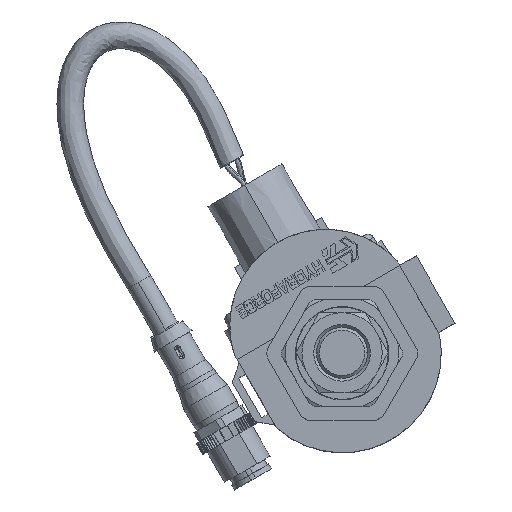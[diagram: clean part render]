
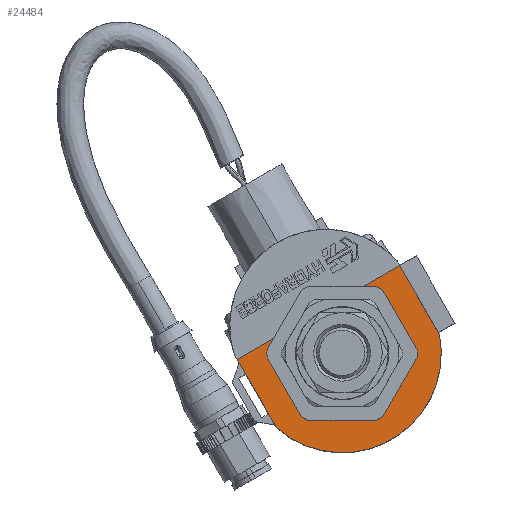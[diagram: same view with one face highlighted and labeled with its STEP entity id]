
A CAD part, top view. The second image highlights one B-rep face of the part: STEP entity #24484.
In plain terms, the highlighted planar face has unit normal (0, 0, 1).
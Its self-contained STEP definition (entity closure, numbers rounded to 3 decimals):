
#542=DIRECTION('',(-0.866,-0.5,0.));
#543=VECTOR('',#542,11.062);
#544=CARTESIAN_POINT('',(-15.338,4.138,38.557));
#545=LINE('',#544,#543);
#895=CARTESIAN_POINT('',(0.,0.,38.557));
#896=DIRECTION('',(0.,0.,1.));
#897=DIRECTION('',(-0.993,0.115,0.));
#898=AXIS2_PLACEMENT_3D('',#895,#896,#897);
#900=CARTESIAN_POINT('',(0.,0.,38.557));
#901=DIRECTION('',(0.,0.,1.));
#902=DIRECTION('',(-0.866,-0.5,0.));
#903=AXIS2_PLACEMENT_3D('',#900,#901,#902);
#905=CARTESIAN_POINT('',(0.,0.,38.557));
#906=DIRECTION('',(0.,0.,1.));
#907=DIRECTION('',(0.866,0.5,0.));
#908=AXIS2_PLACEMENT_3D('',#905,#906,#907);
#910=DIRECTION('',(-0.5,0.866,0.));
#911=VECTOR('',#910,2.921);
#912=CARTESIAN_POINT('',(5.546,12.822,38.557));
#913=LINE('',#912,#911);
#914=DIRECTION('',(0.866,0.5,0.));
#915=VECTOR('',#914,11.062);
#916=CARTESIAN_POINT('',(4.086,15.352,38.557));
#917=LINE('',#916,#915);
#918=DIRECTION('',(0.5,-0.866,0.));
#919=VECTOR('',#918,18.923);
#920=CARTESIAN_POINT('',(13.665,20.883,38.557));
#921=LINE('',#920,#919);
#922=CARTESIAN_POINT('',(0.,0.,38.557));
#923=DIRECTION('',(0.,0.,-1.));
#924=DIRECTION('',(0.982,0.191,0.));
#925=AXIS2_PLACEMENT_3D('',#922,#923,#924);
#927=DIRECTION('',(-0.5,0.866,0.));
#928=VECTOR('',#927,18.923);
#929=CARTESIAN_POINT('',(-15.456,-17.781,38.557));
#930=LINE('',#929,#928);
#931=DIRECTION('',(0.5,-0.866,0.));
#932=VECTOR('',#931,2.921);
#933=CARTESIAN_POINT('',(-15.338,4.138,38.557));
#934=LINE('',#933,#932);
#20598=CARTESIAN_POINT('',(4.086,15.352,38.557));
#20599=CARTESIAN_POINT('',(-15.338,4.138,38.557));
#20600=VERTEX_POINT('',#20598);
#20601=VERTEX_POINT('',#20599);
#20602=CARTESIAN_POINT('',(-24.918,-1.393,38.557));
#20603=VERTEX_POINT('',#20602);
#20609=CARTESIAN_POINT('',(13.665,20.883,38.557));
#20610=VERTEX_POINT('',#20609);
#20880=CARTESIAN_POINT('',(-13.877,1.608,38.557));
#20882=VERTEX_POINT('',#20880);
#20887=CARTESIAN_POINT('',(5.546,12.822,38.557));
#20888=VERTEX_POINT('',#20887);
#21072=CARTESIAN_POINT('',(-12.098,-6.985,38.557));
#21074=VERTEX_POINT('',#21072);
#21109=CARTESIAN_POINT('',(12.098,6.985,38.557));
#21110=VERTEX_POINT('',#21109);
#21221=CARTESIAN_POINT('',(23.127,4.495,38.557));
#21222=VERTEX_POINT('',#21221);
#21223=CARTESIAN_POINT('',(-15.456,-17.781,38.557));
#21224=VERTEX_POINT('',#21223);
#24461=CARTESIAN_POINT('',(-5.626,9.745,38.557));
#24462=DIRECTION('',(0.,0.,-1.));
#24463=DIRECTION('',(-0.5,0.866,0.));
#24464=AXIS2_PLACEMENT_3D('',#24461,#24462,#24463);
#24465=PLANE('',#24464);
#24467=ORIENTED_EDGE('',*,*,#24466,.T.);
#24469=ORIENTED_EDGE('',*,*,#24468,.T.);
#24471=ORIENTED_EDGE('',*,*,#24470,.T.);
#24472=ORIENTED_EDGE('',*,*,#24078,.T.);
#24473=ORIENTED_EDGE('',*,*,#24120,.T.);
#24475=ORIENTED_EDGE('',*,*,#24474,.T.);
#24477=ORIENTED_EDGE('',*,*,#24476,.T.);
#24479=ORIENTED_EDGE('',*,*,#24478,.T.);
#24480=ORIENTED_EDGE('',*,*,#24108,.F.);
#24481=ORIENTED_EDGE('',*,*,#24045,.T.);
#24482=EDGE_LOOP('',(#24467,#24469,#24471,#24472,#24473,#24475,#24477,#24479,
#24480,#24481));
#24483=FACE_OUTER_BOUND('',#24482,.F.);
#24484=ADVANCED_FACE('',(#24483),#24465,.F.);
#899=CIRCLE('',#898,13.97);
#904=CIRCLE('',#903,13.97);
#909=CIRCLE('',#908,13.97);
#926=CIRCLE('',#925,23.56);
#24045=EDGE_CURVE('',#20601,#20882,#934,.T.);
#24078=EDGE_CURVE('',#20888,#20600,#913,.T.);
#24108=EDGE_CURVE('',#20601,#20603,#545,.T.);
#24120=EDGE_CURVE('',#20600,#20610,#917,.T.);
#24466=EDGE_CURVE('',#20882,#21074,#899,.T.);
#24468=EDGE_CURVE('',#21074,#21110,#904,.T.);
#24470=EDGE_CURVE('',#21110,#20888,#909,.T.);
#24474=EDGE_CURVE('',#20610,#21222,#921,.T.);
#24476=EDGE_CURVE('',#21222,#21224,#926,.T.);
#24478=EDGE_CURVE('',#21224,#20603,#930,.T.);
